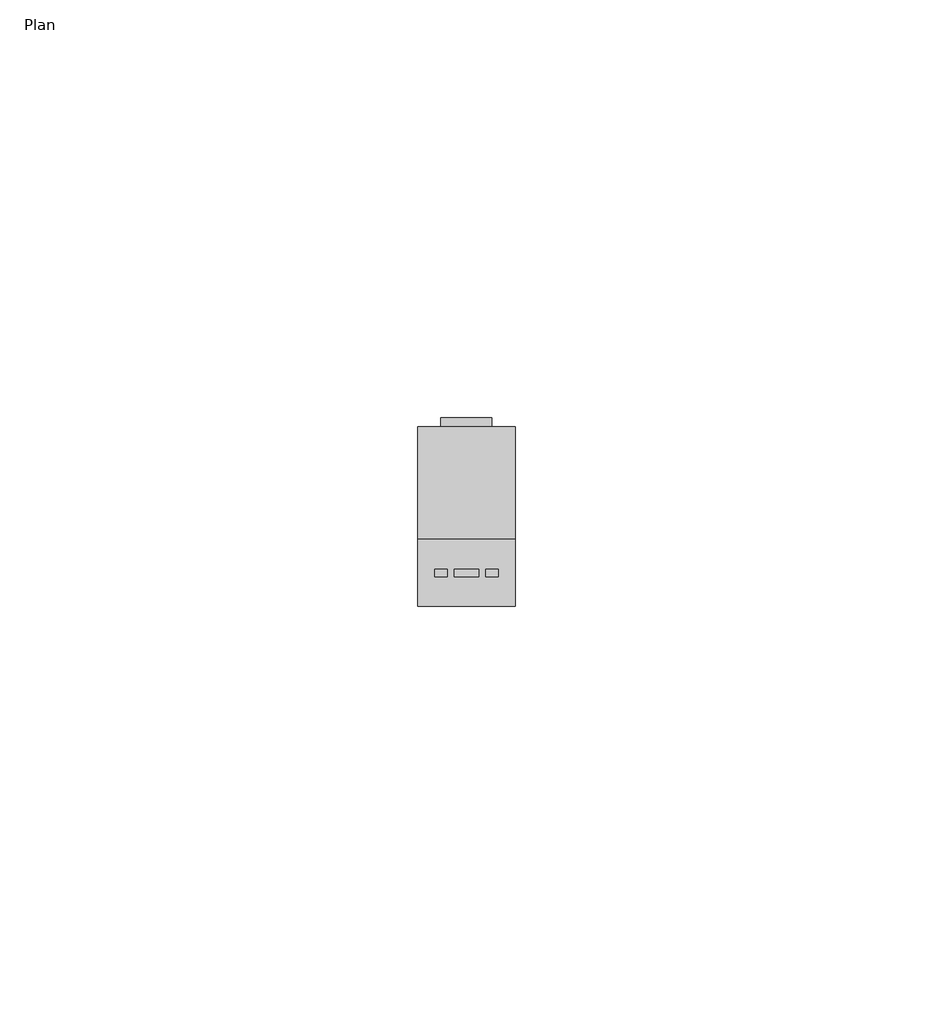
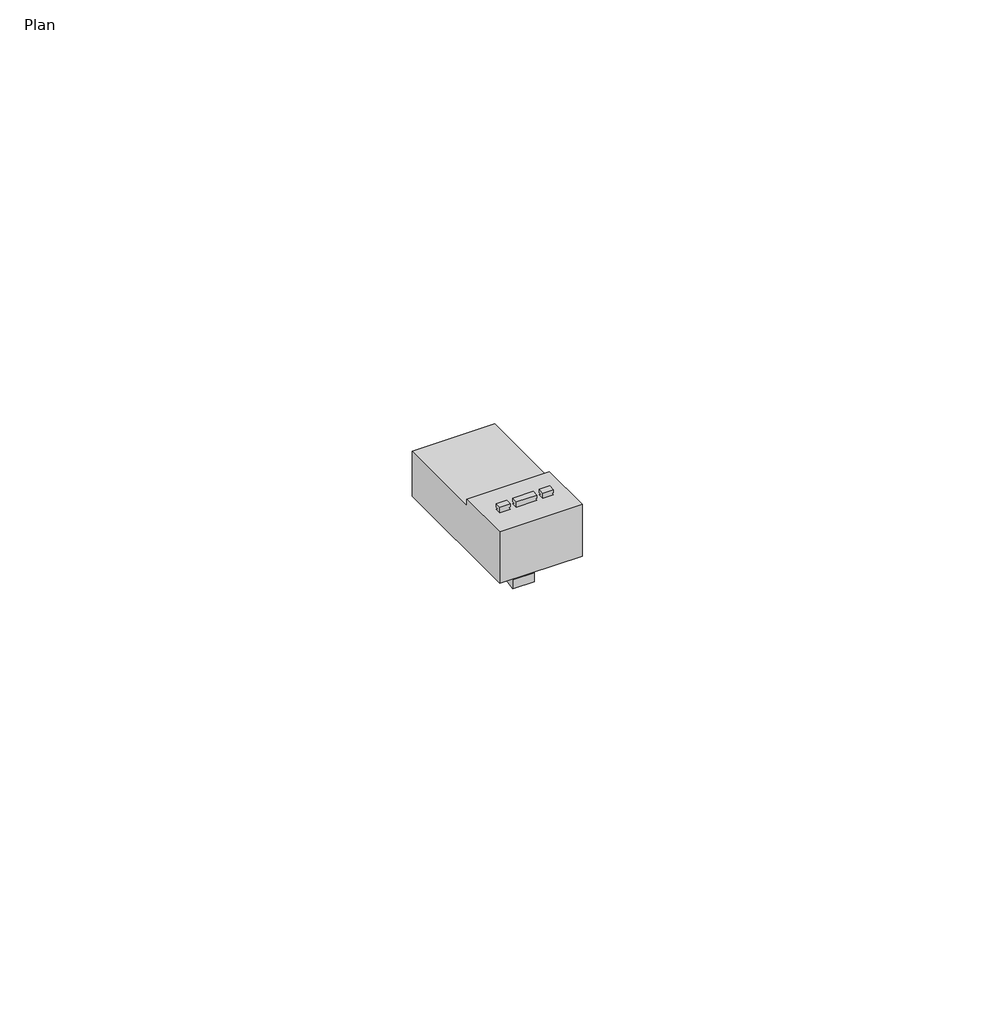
# One storey: 1 electric appliance.
"""IFC4 building model written with IfcOpenShell, lengths in millimetres."""

from ifc_helpers import new_model, si_unit, origin, place, context, project, spatial, transform, mapped, element, save
from components import cat_6_plug_rj45_8d859037

model = new_model("IFC4")

# Units and contexts
model_context = context("Model", 3, world=origin())
ifc_project = project(units=[si_unit("LENGTHUNIT", "METRE", prefix="MILLI")], contexts=[model_context])

# Site, building, storey
site = spatial("IfcSite", under=ifc_project)
building = spatial("IfcBuilding", under=site)
storey = spatial("IfcBuildingStorey", under=building, Name="Plan", Elevation=0.0)

# Electric appliance
placement = place(None, origin())
cat_6_plug_rj45_shape = cat_6_plug_rj45_8d859037(model_context)
element("IfcElectricAppliance", 1, ObjectType="Data_Device-Network-Leviton-Cat_6-Plug : Cat 6 Plug RJ45", at=placement, inside=storey, context=model_context, shape_type="MappedRepresentation", body=[
    mapped(cat_6_plug_rj45_shape, transform((2447.7329608, -780.1325522, 319.0887138), x_axis=(1.0, 0.0, 0.0), y_axis=(0.0, 0.0, -1.0), z_axis=(0.0, 1.0, 0.0))),
])

save(model, "model.ifc")
